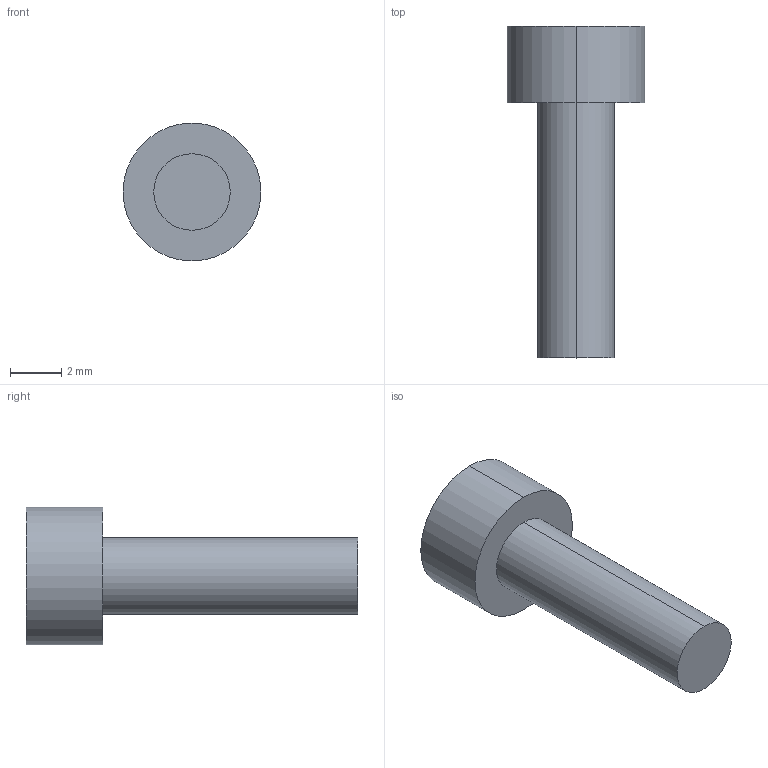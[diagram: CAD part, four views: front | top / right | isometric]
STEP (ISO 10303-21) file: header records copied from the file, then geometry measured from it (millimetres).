
FILE_DESCRIPTION (( 'STEP AP214' ), '1' );
FILE_NAME ('M3_imbus_10mm.STEP', '2026-02-22T20:19:43', ( '' ), ( '' ), 'SwSTEP 2.0', 'SolidWorks 2024', '' );
FILE_SCHEMA (( 'AUTOMOTIVE_DESIGN' ));
Length unit declared in the file: millimetre
Products named in the file (1): M3_imbus_10mm
Bounding box: 5.4 x 13 x 5.4 mm (x, y, z)
Volume: 119.9 mm3; surface area: 216.9 mm2
Topology: 1 solids, 1 shells, 14 faces, 30 edges, 20 vertices
Faces by surface type: plane 10, cylinder 4
Entity records: 405 total; most frequent: DIRECTION 68, CARTESIAN_POINT 65, ORIENTED_EDGE 60, EDGE_CURVE 30, AXIS2_PLACEMENT_3D 23, LINE 22, VECTOR 22, VERTEX_POINT 20
